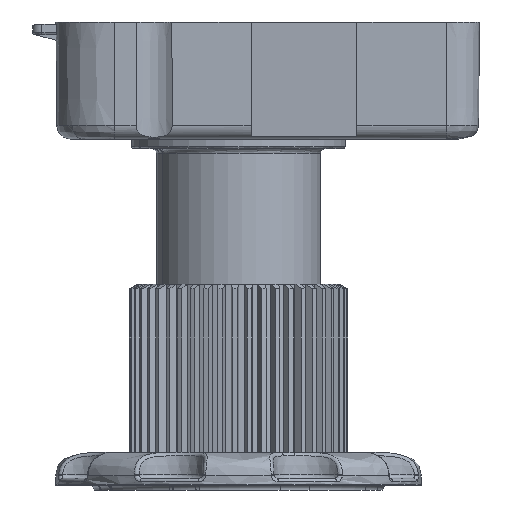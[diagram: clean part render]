
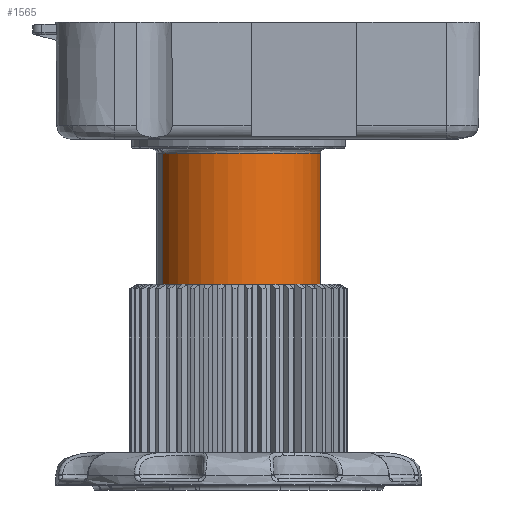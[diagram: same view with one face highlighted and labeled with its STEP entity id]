
A CAD part, front view. The second image highlights one B-rep face of the part: STEP entity #1565.
In plain terms, the highlighted cylindrical face has radius 17.5 mm (diameter 35 mm), a partial arc.
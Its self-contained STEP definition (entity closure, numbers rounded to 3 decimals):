
#369 = CIRCLE ( 'NONE', #35263, 17.5 ) ;
#1565 = ADVANCED_FACE ( 'NONE', ( #39706 ), #36556, .T. ) ;
#3651 = VERTEX_POINT ( 'NONE', #9343 ) ;
#6123 = DIRECTION ( 'NONE',  ( 0., 0., 1. ) ) ;
#9343 = CARTESIAN_POINT ( 'NONE',  ( 20.293, -6.407, 104.186 ) ) ;
#9623 = DIRECTION ( 'NONE',  ( -0.924, -0.383, 0. ) ) ;
#9802 = ORIENTED_EDGE ( 'NONE', *, *, #30769, .T. ) ;
#10359 = DIRECTION ( 'NONE',  ( 0., 0., 1. ) ) ;
#11474 = CARTESIAN_POINT ( 'NONE',  ( 36.458, 0.296, 104.186 ) ) ;
#12241 = CIRCLE ( 'NONE', #14269, 17.5 ) ;
#13941 = ORIENTED_EDGE ( 'NONE', *, *, #18929, .T. ) ;
#14084 = AXIS2_PLACEMENT_3D ( 'NONE', #16833, #10359, #29868 ) ;
#14108 = LINE ( 'NONE', #33825, #34244 ) ;
#14269 = AXIS2_PLACEMENT_3D ( 'NONE', #32288, #28925, #9623 ) ;
#16833 = CARTESIAN_POINT ( 'NONE',  ( 36.458, 0.296, 99.291 ) ) ;
#17759 = DIRECTION ( 'NONE',  ( 0.924, 0.383, 0. ) ) ;
#18001 = EDGE_CURVE ( 'NONE', #23920, #20871, #38013, .T. ) ;
#18578 = CARTESIAN_POINT ( 'NONE',  ( 52.623, 7., 104.186 ) ) ;
#18929 = EDGE_CURVE ( 'NONE', #3651, #23920, #369, .T. ) ;
#19941 = ORIENTED_EDGE ( 'NONE', *, *, #28665, .F. ) ;
#20871 = VERTEX_POINT ( 'NONE', #31673 ) ;
#22152 = VERTEX_POINT ( 'NONE', #37097 ) ;
#23920 = VERTEX_POINT ( 'NONE', #18578 ) ;
#27825 = DIRECTION ( 'NONE',  ( 0., 0., 1. ) ) ;
#28665 = EDGE_CURVE ( 'NONE', #3651, #22152, #14108, .T. ) ;
#28925 = DIRECTION ( 'NONE',  ( 0., 0., -1. ) ) ;
#29868 = DIRECTION ( 'NONE',  ( 0.924, 0.383, 0. ) ) ;
#30236 = ORIENTED_EDGE ( 'NONE', *, *, #18001, .T. ) ;
#30769 = EDGE_CURVE ( 'NONE', #20871, #22152, #12241, .T. ) ;
#31673 = CARTESIAN_POINT ( 'NONE',  ( 52.623, 7., 142.09 ) ) ;
#32288 = CARTESIAN_POINT ( 'NONE',  ( 36.458, 0.296, 142.09 ) ) ;
#33079 = VECTOR ( 'NONE', #6123, 1000. ) ;
#33825 = CARTESIAN_POINT ( 'NONE',  ( 20.293, -6.407, 99.291 ) ) ;
#34244 = VECTOR ( 'NONE', #40532, 1000. ) ;
#35263 = AXIS2_PLACEMENT_3D ( 'NONE', #11474, #27825, #17759 ) ;
#36025 = EDGE_LOOP ( 'NONE', ( #19941, #13941, #30236, #9802 ) ) ;
#36556 = CYLINDRICAL_SURFACE ( 'NONE', #14084, 17.5 ) ;
#37097 = CARTESIAN_POINT ( 'NONE',  ( 20.293, -6.407, 142.09 ) ) ;
#38013 = LINE ( 'NONE', #41157, #33079 ) ;
#39706 = FACE_OUTER_BOUND ( 'NONE', #36025, .T. ) ;
#40532 = DIRECTION ( 'NONE',  ( 0., 0., 1. ) ) ;
#41157 = CARTESIAN_POINT ( 'NONE',  ( 52.623, 7., 99.291 ) ) ;
